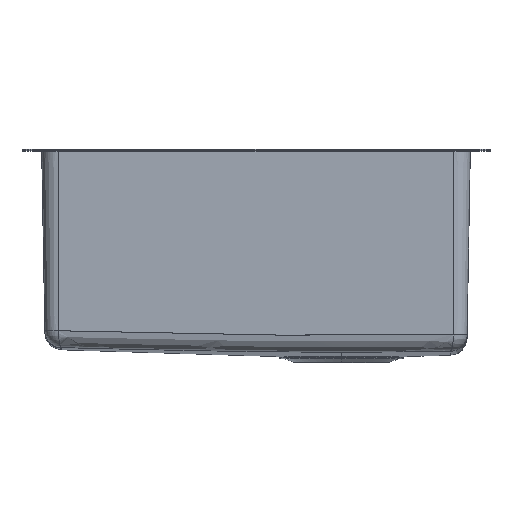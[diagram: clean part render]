
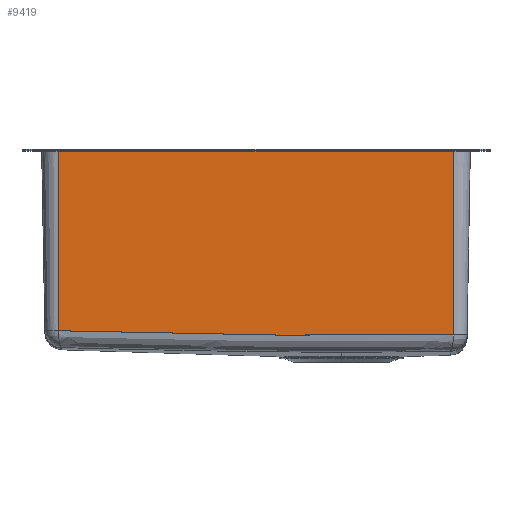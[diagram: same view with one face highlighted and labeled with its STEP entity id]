
A CAD part, top view. The second image highlights one B-rep face of the part: STEP entity #9419.
In plain terms, the highlighted planar face has unit normal (0, -0.018, 1).
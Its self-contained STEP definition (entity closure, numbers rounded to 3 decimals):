
#351 = DIRECTION ( 'NONE',  ( 0., -1., -0.017 ) ) ;
#624 = DIRECTION ( 'NONE',  ( -1., 0., 0. ) ) ;
#712 = EDGE_CURVE ( 'NONE', #11645, #17566, #20905, .T. ) ;
#1554 =( BOUNDED_CURVE ( )  B_SPLINE_CURVE ( 3, ( #5647, #9139, #4193, #17446, #19121, #20781, #12535, #2590, #4264, #20571, #17230, #18834, #17157, #8921 ),
 .UNSPECIFIED., .F., .F. ) 
 B_SPLINE_CURVE_WITH_KNOTS ( ( 4, 2, 2, 2, 2, 2, 4 ),
 ( 0., 0.121, 0.247, 0.374, 0.5, 0.753, 1. ),
 .UNSPECIFIED. ) 
 CURVE ( )  GEOMETRIC_REPRESENTATION_ITEM ( )  RATIONAL_B_SPLINE_CURVE ( ( 1., 1., 1., 1., 1., 1., 1., 1., 1., 1., 1., 1., 1., 1. ) ) 
 REPRESENTATION_ITEM ( '' )  );
#2137 = CARTESIAN_POINT ( 'NONE',  ( -185.5, -1.983, 201.465 ) ) ;
#2590 = CARTESIAN_POINT ( 'NONE',  ( 31.263, -174.736, 198.45 ) ) ;
#2748 = ORIENTED_EDGE ( 'NONE', *, *, #3599, .F. ) ;
#3376 = FACE_OUTER_BOUND ( 'NONE', #8327, .T. ) ;
#3599 = EDGE_CURVE ( 'NONE', #15537, #17566, #1554, .T. ) ;
#3877 = EDGE_CURVE ( 'NONE', #18594, #11645, #17988, .T. ) ;
#4193 = CARTESIAN_POINT ( 'NONE',  ( 155.691, -174.472, 198.455 ) ) ;
#4264 = CARTESIAN_POINT ( 'NONE',  ( 15.619, -174.588, 198.453 ) ) ;
#5647 = CARTESIAN_POINT ( 'NONE',  ( 185.5, -174.047, 198.462 ) ) ;
#7352 = ORIENTED_EDGE ( 'NONE', *, *, #13836, .T. ) ;
#8327 = EDGE_LOOP ( 'NONE', ( #7352, #12754, #14104, #2748 ) ) ;
#8921 = CARTESIAN_POINT ( 'NONE',  ( -185.5, -170.565, 198.523 ) ) ;
#9139 = CARTESIAN_POINT ( 'NONE',  ( 170.596, -174.278, 198.458 ) ) ;
#9419 = ADVANCED_FACE ( 'NONE', ( #3376 ), #10364, .T. ) ;
#10364 = PLANE ( 'NONE',  #18862 ) ;
#11631 = DIRECTION ( 'NONE',  ( 0., -1., -0.017 ) ) ;
#11645 = VERTEX_POINT ( 'NONE', #21284 ) ;
#12403 = LINE ( 'NONE', #18579, #21481 ) ;
#12535 = CARTESIAN_POINT ( 'NONE',  ( 62.552, -174.912, 198.447 ) ) ;
#12754 = ORIENTED_EDGE ( 'NONE', *, *, #3877, .T. ) ;
#13836 = EDGE_CURVE ( 'NONE', #15537, #18594, #12403, .T. ) ;
#14104 = ORIENTED_EDGE ( 'NONE', *, *, #712, .T. ) ;
#14710 = VECTOR ( 'NONE', #11631, 1000. ) ;
#15537 = VERTEX_POINT ( 'NONE', #18374 ) ;
#16900 = CARTESIAN_POINT ( 'NONE',  ( -185.5, -170.565, 198.523 ) ) ;
#17157 = CARTESIAN_POINT ( 'NONE',  ( -154.96, -171.348, 198.509 ) ) ;
#17230 = CARTESIAN_POINT ( 'NONE',  ( -62.596, -173.418, 198.473 ) ) ;
#17446 = CARTESIAN_POINT ( 'NONE',  ( 125.138, -174.77, 198.449 ) ) ;
#17566 = VERTEX_POINT ( 'NONE', #16900 ) ;
#17988 = LINE ( 'NONE', #20265, #20319 ) ;
#18374 = CARTESIAN_POINT ( 'NONE',  ( 185.5, -174.047, 198.462 ) ) ;
#18505 = DIRECTION ( 'NONE',  ( 0., 1., 0.017 ) ) ;
#18530 = DIRECTION ( 'NONE',  ( 0., -0.017, 1. ) ) ;
#18579 = CARTESIAN_POINT ( 'NONE',  ( 185.5, -88.975, 199.947 ) ) ;
#18594 = VERTEX_POINT ( 'NONE', #19362 ) ;
#18834 = CARTESIAN_POINT ( 'NONE',  ( -124.42, -172.09, 198.496 ) ) ;
#18862 = AXIS2_PLACEMENT_3D ( 'NONE', #2137, #18530, #351 ) ;
#19121 = CARTESIAN_POINT ( 'NONE',  ( 109.491, -174.869, 198.448 ) ) ;
#19362 = CARTESIAN_POINT ( 'NONE',  ( 185.5, -1.983, 201.465 ) ) ;
#19870 = CARTESIAN_POINT ( 'NONE',  ( -185.5, -88.975, 199.947 ) ) ;
#20265 = CARTESIAN_POINT ( 'NONE',  ( 0., -1.983, 201.465 ) ) ;
#20319 = VECTOR ( 'NONE', #624, 1000. ) ;
#20571 = CARTESIAN_POINT ( 'NONE',  ( -31.311, -173.999, 198.463 ) ) ;
#20781 = CARTESIAN_POINT ( 'NONE',  ( 78.198, -174.94, 198.446 ) ) ;
#20905 = LINE ( 'NONE', #19870, #14710 ) ;
#21284 = CARTESIAN_POINT ( 'NONE',  ( -185.5, -1.983, 201.465 ) ) ;
#21481 = VECTOR ( 'NONE', #18505, 1000. ) ;
